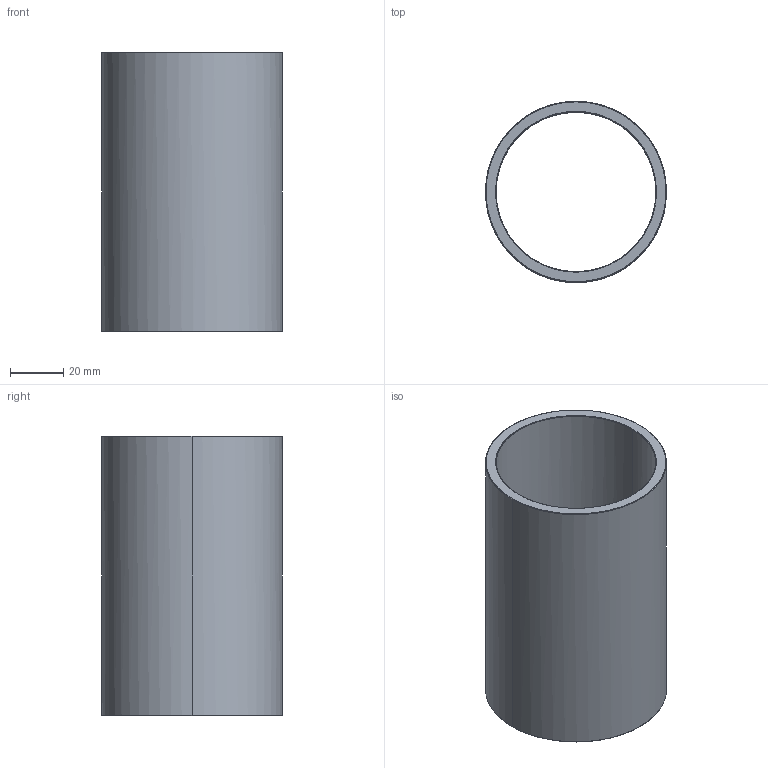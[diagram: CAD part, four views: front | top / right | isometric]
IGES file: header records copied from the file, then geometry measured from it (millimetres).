
Start section: Write IGES format                                    datakit 2008 (c)
Global section: file name: Unknown; native system: DATAKIT Converter; preprocessor: Unknown; author: Unknown; organization: Unknown; date: 950613.180003; units: millimetre
Bounding box: 68 x 67.99 x 105 mm (x, y, z)
Surface area: 43737.3 mm2 (no closed solid volume)
Topology: 0 solids, 0 shells, 14 faces, 56 edges, 56 vertices
Faces by surface type: revolution 12, bspline 2
